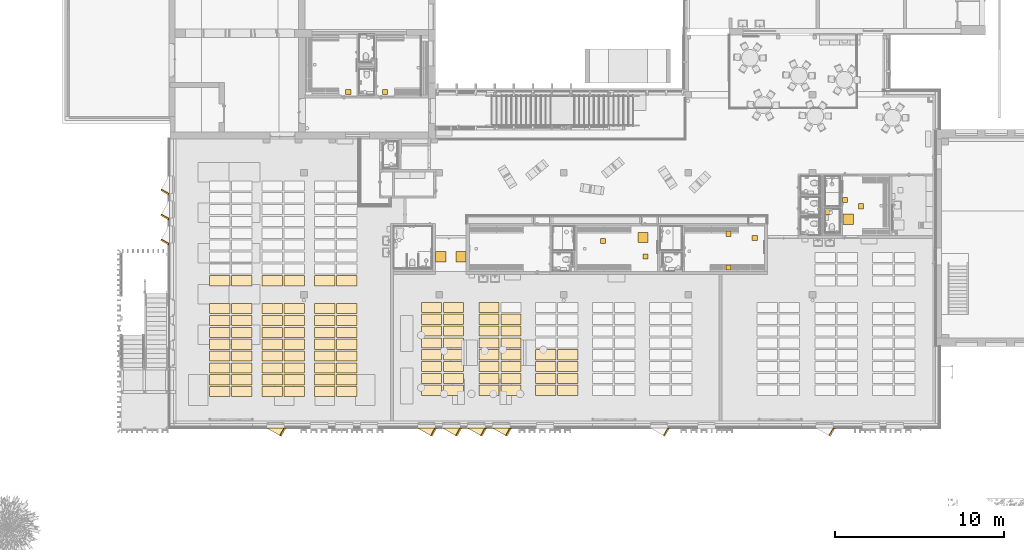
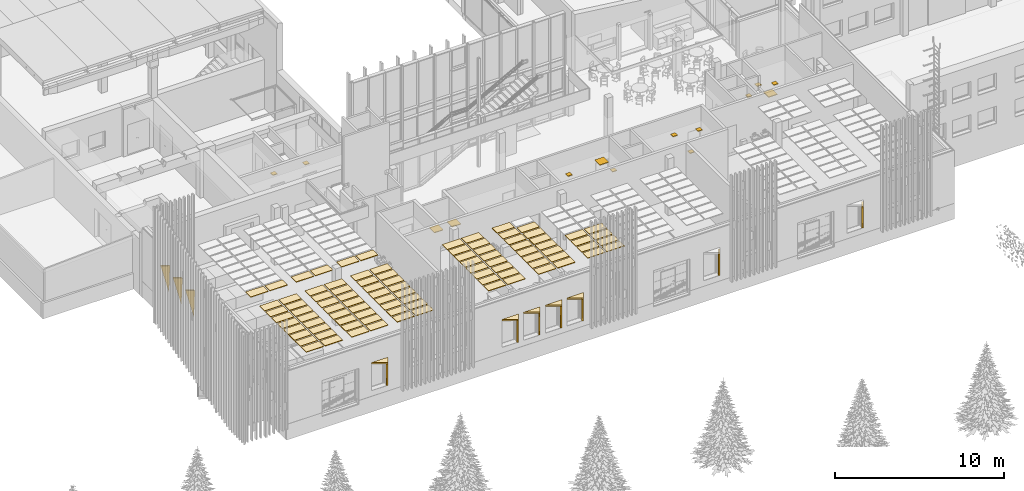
# One storey, part 231 of 301: 108 coverings, 14 doors.
"""IFC2X3 building model written with IfcOpenShell, lengths in millimetres."""

from ifc_helpers import new_model, entity, si_unit, converted_unit, derived_unit, money_unit, direction, frame, origin_with_axes, place, context, subcontext, project, spatial, faceted_brep, source, transform, mapped, material, type_object, element, save


model = new_model("IFC2X3")

# Units and contexts
model_context = context("Model", 3, precision=0.01, world=origin_with_axes(), true_north=direction((0.0, 1.0)))
body_context = subcontext(model_context, "Body", "Model", "MODEL_VIEW")
ifc_project = project(units=[si_unit("LENGTHUNIT", "METRE", prefix="MILLI"), si_unit("AREAUNIT", "SQUARE_METRE"), si_unit("VOLUMEUNIT", "CUBIC_METRE"), converted_unit("PLANEANGLEUNIT", "DEGREE", entity("IfcPlaneAngleMeasure", 0.0174532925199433), si_unit("PLANEANGLEUNIT", "RADIAN"), dimensions=[0, 0, 0, 0, 0, 0, 0]), money_unit("EUR"), converted_unit("TIMEUNIT", "Year", entity("IfcTimeMeasure", 31557600.0), si_unit("TIMEUNIT", "SECOND"), dimensions=[0, 0, 1, 0, 0, 0, 0]), si_unit("MASSUNIT", "GRAM", prefix="KILO"), si_unit("THERMODYNAMICTEMPERATUREUNIT", "DEGREE_CELSIUS"), si_unit("LUMINOUSINTENSITYUNIT", "LUMEN"), si_unit("ENERGYUNIT", "JOULE", prefix="MEGA"), derived_unit("THERMALCONDUCTANCEUNIT", [(si_unit("POWERUNIT", "WATT"), 1), (si_unit("LENGTHUNIT", "METRE"), -1), (si_unit("THERMODYNAMICTEMPERATUREUNIT", "KELVIN"), -1)]), derived_unit("SPECIFICHEATCAPACITYUNIT", [(si_unit("ENERGYUNIT", "JOULE"), 1), (si_unit("MASSUNIT", "GRAM", prefix="KILO"), -1), (si_unit("THERMODYNAMICTEMPERATUREUNIT", "KELVIN"), -1)]), derived_unit("MASSDENSITYUNIT", [(si_unit("MASSUNIT", "GRAM", prefix="KILO"), 1), (si_unit("VOLUMEUNIT", "CUBIC_METRE"), -1)])], contexts=[model_context])

# Site, building, storey
site_placement = place(None, frame((0.0, 0.0, 8650.0), z_axis=(0.0, 0.0, 1.0), x_axis=(1.0, 0.0, 0.0)))
site = spatial("IfcSite", under=ifc_project, at=site_placement, Name="43301:001:0844", CompositionType="ELEMENT")
building_placement = place(site_placement, origin_with_axes())
building = spatial("IfcBuilding", under=site, at=building_placement, Name="Kuressaare Ametikooli tuulikute mehaanikute õppekorpus", CompositionType="ELEMENT")
storey_placement = place(building_placement, origin_with_axes())
storey = spatial("IfcBuildingStorey", under=building, at=storey_placement, Name="1.korrus", CompositionType="ELEMENT", Elevation=0.0)

# Doors
ifc_material_1 = material(Name="GENEERILINE - EHITUSTOODE")
door_style = type_object("IfcDoorStyle", Name="GENEERILINE - EHITUSTOODE 50", ConstructionType="NOTDEFINED", OperationType="NOTDEFINED", ParameterTakesPrecedence=False, Sizeable=False)
door_1_placement = place(storey_placement, frame((120810.3884756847, 18034.33709819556, 2600.0), z_axis=(0.0, 0.0, 1.0), x_axis=(1.0, 0.0, 0.0)))
element("IfcDoor", 1, at=door_1_placement, inside=storey, type_object=door_style, material=ifc_material_1, Name="PL1", context=body_context, shape_type="Brep", body=[
    faceted_brep([(0.0, 0.0, 49.99999999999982), (0.0, 0.0, 0.0), (299.9999999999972, 0.0, 0.0), (299.9999999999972, 0.0, 49.99999999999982), (0.0, 300.0000000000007, 49.99999999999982), (0.0, 300.0000000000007, 0.0), (299.9999999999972, 300.0000000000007, 0.0), (299.9999999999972, 300.0000000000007, 49.99999999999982)], [[[0, 1, 2, 3]], [[4, 5, 1, 0]], [[2, 1, 5, 6]], [[3, 2, 6, 7]], [[4, 0, 3, 7]], [[7, 6, 5, 4]]]),
])
door_2_placement = place(storey_placement, frame((128622.2178554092, 21648.56134124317, 2600.0), z_axis=(0.0, 0.0, 1.0), x_axis=(1.0, 0.0, 0.0)))
element("IfcDoor", 2, at=door_2_placement, inside=storey, type_object=door_style, material=ifc_material_1, Name="PL1", context=body_context, shape_type="Brep", body=[
    faceted_brep([(0.0, 0.0, 49.99999999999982), (0.0, 0.0, 0.0), (300.0000000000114, 0.0, 0.0), (300.0000000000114, 0.0, 49.99999999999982), (0.0, 300.0000000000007, 49.99999999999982), (0.0, 300.0000000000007, 0.0), (300.0000000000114, 300.0000000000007, 0.0), (300.0000000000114, 300.0000000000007, 49.99999999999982)], [[[0, 1, 2, 3]], [[4, 5, 1, 0]], [[2, 1, 5, 6]], [[3, 2, 6, 7]], [[4, 0, 3, 7]], [[7, 6, 5, 4]]]),
])
for number, where, z_axis, x_axis, name in (
    (3, (103646.4288775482, 18510.49999980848, 2600.0), (0.0, 0.0, 1.0), (1.0, 0.0, 0.0), "PL2"),
    (4, (104855.512230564, 18510.49999980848, 2600.0), (0.0, 0.0, 1.0), (1.0, 0.0, 0.0), "PL2"),
):
    element("IfcDoor", number, at=place(storey_placement, frame(where, z_axis=z_axis, x_axis=x_axis)), inside=storey, type_object=door_style, material=ifc_material_1, Name=name, context=body_context, shape_type="Brep", body=[
        faceted_brep([(0.0, 0.0, 49.99999999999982), (0.0, 0.0, 0.0), (599.9999999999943, 0.0, 0.0), (599.9999999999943, 0.0, 49.99999999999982), (0.0, 599.9999999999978, 49.99999999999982), (0.0, 599.9999999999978, 0.0), (599.9999999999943, 599.9999999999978, 0.0), (599.9999999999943, 599.9999999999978, 49.99999999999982)], [[[0, 1, 2, 3]], [[4, 5, 1, 0]], [[2, 1, 5, 6]], [[3, 2, 6, 7]], [[4, 0, 3, 7]], [[7, 6, 5, 4]]]),
    ])
door_3_placement = place(storey_placement, frame((98635.22015626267, 28401.88754336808, 2600.0), z_axis=(0.0, 0.0, 1.0), x_axis=(1.0, 0.0, 0.0)))
element("IfcDoor", 5, at=door_3_placement, inside=storey, type_object=door_style, material=ifc_material_1, Name="PL1", context=body_context, shape_type="Brep", body=[
    faceted_brep([(0.0, 0.0, 49.99999999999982), (0.0, 0.0, 0.0), (0.0, 300.0000000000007, 0.0), (0.0, 300.0000000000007, 49.99999999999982), (-299.9999999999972, 0.0, 49.99999999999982), (-299.9999999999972, 0.0, 0.0), (-299.9999999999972, 300.0000000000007, 0.0), (-299.9999999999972, 300.0000000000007, 49.99999999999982)], [[[0, 1, 2, 3]], [[4, 5, 1, 0]], [[2, 1, 5, 6]], [[3, 2, 6, 7]], [[4, 0, 3, 7]], [[7, 6, 5, 4]]]),
])
door_4_placement = place(storey_placement, frame((127725.5076866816, 20725.77488011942, 2600.0), z_axis=(0.0, 0.0, 1.0), x_axis=(1.0, 0.0, 0.0)))
element("IfcDoor", 6, at=door_4_placement, inside=storey, type_object=door_style, material=ifc_material_1, Name="PL2", context=body_context, shape_type="Brep", body=[
    faceted_brep([(0.0, 0.0, 49.99999999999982), (0.0, 0.0, 0.0), (599.9999999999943, 0.0, 0.0), (599.9999999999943, 0.0, 49.99999999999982), (0.0, 599.9999999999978, 49.99999999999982), (0.0, 599.9999999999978, 0.0), (599.9999999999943, 599.9999999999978, 0.0), (599.9999999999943, 599.9999999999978, 49.99999999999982)], [[[0, 1, 2, 3]], [[4, 5, 1, 0]], [[2, 1, 5, 6]], [[3, 2, 6, 7]], [[4, 0, 3, 7]], [[7, 6, 5, 4]]]),
])
door_5_placement = place(storey_placement, frame((126655.2622740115, 21322.07015572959, 2600.0), z_axis=(0.0, 0.0, 1.0), x_axis=(1.0, 0.0, 0.0)))
element("IfcDoor", 7, at=door_5_placement, inside=storey, type_object=door_style, material=ifc_material_1, Name="PL1", context=body_context, shape_type="Brep", body=[
    faceted_brep([(0.0, 0.0, 49.99999999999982), (0.0, 0.0, 0.0), (299.9999999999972, 0.0, 0.0), (299.9999999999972, 0.0, 49.99999999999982), (0.0, 300.0000000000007, 49.99999999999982), (0.0, 300.0000000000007, 0.0), (299.9999999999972, 300.0000000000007, 0.0), (299.9999999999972, 300.0000000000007, 49.99999999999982)], [[[0, 1, 2, 3]], [[4, 5, 1, 0]], [[2, 1, 5, 6]], [[3, 2, 6, 7]], [[4, 0, 3, 7]], [[7, 6, 5, 4]]]),
])
door_6_placement = place(storey_placement, frame((115595.5647433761, 19654.87164800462, 2600.0), z_axis=(0.0, 0.0, 1.0), x_axis=(1.0, 0.0, 0.0)))
element("IfcDoor", 8, at=door_6_placement, inside=storey, type_object=door_style, material=ifc_material_1, Name="PL2", context=body_context, shape_type="Brep", body=[
    faceted_brep([(0.0, 0.0, 49.99999999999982), (0.0, 0.0, 0.0), (599.9999999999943, 0.0, 0.0), (599.9999999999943, 0.0, 49.99999999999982), (0.0, 599.9999999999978, 49.99999999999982), (0.0, 599.9999999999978, 0.0), (599.9999999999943, 599.9999999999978, 0.0), (599.9999999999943, 599.9999999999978, 49.99999999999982)], [[[0, 1, 2, 3]], [[4, 5, 1, 0]], [[2, 1, 5, 6]], [[3, 2, 6, 7]], [[4, 0, 3, 7]], [[7, 6, 5, 4]]]),
])
for number, where, z_axis, x_axis, name in (
    (9, (115902.7588329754, 18672.41860460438, 2600.0), (0.0, 0.0, 1.0), (1.0, 0.0, 0.0), "PL1"),
    (10, (113388.1882783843, 19593.81328383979, 2600.0), (0.0, 0.0, 1.0), (1.0, 0.0, 0.0), "PL1"),
    (11, (120810.3884756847, 20024.95101274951, 2600.0), (0.0, 0.0, 1.0), (1.0, 0.0, 0.0), "PL1"),
    (12, (122349.7802944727, 19759.95101274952, 2600.0), (0.0, 0.0, 1.0), (1.0, 0.0, 0.0), "PL1"),
    (13, (127694.5654159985, 22029.65420541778, 2600.0), (0.0, 0.0, 1.0), (1.0, 0.0, 0.0), "PL1"),
    (14, (100515.5982103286, 28385.74706393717, 2600.0), (0.0, 0.0, 1.0), (1.0, 0.0, 0.0), "PL1"),
):
    element("IfcDoor", number, at=place(storey_placement, frame(where, z_axis=z_axis, x_axis=x_axis)), inside=storey, type_object=door_style, material=ifc_material_1, Name=name, context=body_context, shape_type="Brep", body=[
        faceted_brep([(0.0, 0.0, 49.99999999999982), (0.0, 0.0, 0.0), (299.9999999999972, 0.0, 0.0), (299.9999999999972, 0.0, 49.99999999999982), (0.0, 300.0000000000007, 49.99999999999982), (0.0, 300.0000000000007, 0.0), (299.9999999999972, 300.0000000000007, 0.0), (299.9999999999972, 300.0000000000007, 49.99999999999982)], [[[0, 1, 2, 3]], [[4, 5, 1, 0]], [[2, 1, 5, 6]], [[3, 2, 6, 7]], [[4, 0, 3, 7]], [[7, 6, 5, 4]]]),
    ])

# Coverings
covering_type_1 = type_object("IfcCoveringType", Name="GENEERILINE - EHITUSTOODE", PredefinedType="NOTDEFINED")
shared_shape = source(origin_with_axes(), body_context, "Body", "Brep", [
    faceted_brep([(-1.439929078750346e-06, 535.5139776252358, 1710.0), (1.386339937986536e-05, 1035.513977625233, -200.0000000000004), (99.99999856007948, 535.5139745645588, 1710.0), (1.386339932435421e-05, 1035.513977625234, 1710.0), (99.5575548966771, 1028.87879242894, -199.8894158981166), (100.0000156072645, 1092.490563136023, 1708.860009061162)], [[[0, 1, 2]], [[1, 0, 3]], [[2, 1, 4]], [[0, 2, 5]], [[3, 0, 5]], [[1, 3, 5]], [[4, 1, 5]], [[5, 2, 4]]]),
])
for number, where, z_axis, x_axis in (
    (15, (104565.321618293, 7787.116868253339, 901.1399909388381), (0.0, 0.0, 1.0), (0.868864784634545, -0.4950494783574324, 0.0)),
    (16, (94173.43784523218, 7787.116868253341, 901.139990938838), (0.0, 0.0, 1.0), (0.868864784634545, -0.4950494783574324, 0.0)),
    (17, (103090.321618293, 7787.116868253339, 901.1399909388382), (0.0, 0.0, 1.0), (0.868864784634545, -0.4950494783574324, 0.0)),
    (18, (106040.321618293, 7787.116868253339, 901.1399909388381), (0.0, 0.0, 1.0), (0.868864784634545, -0.4950494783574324, 0.0)),
    (19, (107515.321618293, 7787.116868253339, 901.1399909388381), (0.0, 0.0, 1.0), (0.868864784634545, -0.4950494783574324, 0.0)),
    (20, (116840.3188626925, 7787.116868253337, 901.139990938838), (0.0, 0.0, 1.0), (0.868864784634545, -0.4950494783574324, 0.0)),
    (21, (126615.437845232, 7787.116868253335, 901.139990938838), (0.0, 0.0, 1.0), (0.868864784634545, -0.4950494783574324, 0.0)),
    (22, (86981.50502288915, 23076.69959045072, 1676.13999093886), (0.0, 0.0, 1.0), (-0.4950494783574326, -0.8688647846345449, 0.0)),
    (23, (86981.50502288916, 20126.69959045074, 1676.13999093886), (0.0, 0.0, 1.0), (-0.4950494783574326, -0.8688647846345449, 0.0)),
    (24, (86981.50502288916, 21601.69959045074, 1676.13999093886), (0.0, 0.0, 1.0), (-0.4950494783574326, -0.8688647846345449, 0.0)),
):
    element("IfcCovering", number, at=place(storey_placement, frame(where, z_axis=z_axis, x_axis=x_axis)), inside=storey, type_object=covering_type_1, material=ifc_material_1, Name="aknakopsik", PredefinedType="NOTDEFINED", context=body_context, shape_type="MappedRepresentation", body=[
        mapped(shared_shape, transform((0.0, 0.0, 0.0))),
    ])
ifc_material_2 = material(Name="GENEERILINE - KONSTRUKTRIOON")
covering_type_2 = type_object("IfcCoveringType", Name="GENEERILINE - KONSTRUKTRIOON 100", PredefinedType="NOTDEFINED")
for number, where, z_axis, x_axis in (
    (25, (105193.044993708, 8686.838490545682, 2710.0), (0.0, 0.0, 1.0), (1.0, 0.0, 0.0)),
    (26, (94801.16122064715, 8686.838490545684, 2710.0), (0.0, 0.0, 1.0), (1.0, 0.0, 0.0)),
    (27, (103718.044993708, 8686.838490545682, 2710.0), (0.0, 0.0, 1.0), (1.0, 0.0, 0.0)),
    (28, (106668.044993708, 8686.838490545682, 2710.0), (0.0, 0.0, 1.0), (1.0, 0.0, 0.0)),
    (29, (108143.044993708, 8686.838490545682, 2710.0), (0.0, 0.0, 1.0), (1.0, 0.0, 0.0)),
):
    element("IfcCovering", number, at=place(storey_placement, frame(where, z_axis=z_axis, x_axis=x_axis)), inside=storey, type_object=covering_type_2, material=ifc_material_2, Name="Akna varjestus", PredefinedType="NOTDEFINED", context=body_context, shape_type="Brep", body=[
        faceted_brep([(0.0, 0.0, 0.0), (0.0, 0.0, -100.0000000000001), (-1125.092708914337, 0.0, -100.0000000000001), (-1125.092708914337, 0.0, 0.0), (-275.7309844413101, -483.937335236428, 0.0), (-275.7309844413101, -483.937335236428, -100.0000000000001)], [[[0, 1, 2, 3]], [[4, 5, 1, 0]], [[2, 1, 5]], [[3, 2, 5, 4]], [[4, 0, 3]]]),
    ])
covering_type_3 = type_object("IfcCoveringType", Name="GENEERILINE - KONSTRUKTRIOON 40", PredefinedType="CEILING")
for number, where, z_axis, x_axis, name in (
    (30, (105300.0, 12724.99999999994, 3530.0), (0.0, 0.0, 1.0), (1.0, 0.0, 0.0), "RL3"),
    (31, (105300.0, 13424.99999999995, 3530.0), (0.0, 0.0, 1.0), (1.0, 0.0, 0.0), "RL3"),
    (32, (105300.0, 14124.99999999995, 3530.0), (0.0, 0.0, 1.0), (1.0, 0.0, 0.0), "RL3"),
    (33, (105300.0, 12024.99999999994, 3530.0), (0.0, 0.0, 1.0), (1.0, 0.0, 0.0), "RL3"),
    (34, (104000.0, 12724.99999999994, 3530.0), (0.0, 0.0, 1.0), (1.0, 0.0, 0.0), "RL3"),
    (35, (104000.0, 13424.99999999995, 3530.0), (0.0, 0.0, 1.0), (1.0, 0.0, 0.0), "RL3"),
    (36, (104000.0, 14124.99999999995, 3530.0), (0.0, 0.0, 1.0), (1.0, 0.0, 0.0), "RL3"),
    (37, (104000.0, 12024.99999999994, 3530.0), (0.0, 0.0, 1.0), (1.0, 0.0, 0.0), "RL3"),
    (38, (105300.0, 11324.99999999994, 3530.0), (0.0, 0.0, 1.0), (1.0, 0.0, 0.0), "RL3"),
    (39, (105300.0, 10624.99999999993, 3530.0), (0.0, 0.0, 1.0), (1.0, 0.0, 0.0), "RL3"),
    (40, (104000.0, 10624.99999999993, 3530.0), (0.0, 0.0, 1.0), (1.0, 0.0, 0.0), "RL3"),
    (41, (104000.0, 11324.99999999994, 3530.0), (0.0, 0.0, 1.0), (1.0, 0.0, 0.0), "RL3"),
    (42, (105300.0, 14824.99999999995, 3530.0), (0.0, 0.0, 1.0), (1.0, 0.0, 0.0), "RL3"),
):
    element("IfcCovering", number, at=place(storey_placement, frame(where, z_axis=z_axis, x_axis=x_axis)), inside=storey, type_object=covering_type_3, material=ifc_material_2, Name=name, PredefinedType="CEILING", context=body_context, shape_type="Brep", body=[
        faceted_brep([(0.0, 0.0, 0.0), (0.0, 0.0, -40.00000000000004), (0.0, 599.9999999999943, -40.00000000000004), (0.0, 599.9999999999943, 0.0), (-1200.000000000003, 0.0, 0.0), (-1200.000000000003, 0.0, -40.00000000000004), (-1200.000000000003, 599.9999999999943, -40.00000000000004), (-1200.000000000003, 599.9999999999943, 0.0)], [[[0, 1, 2, 3]], [[4, 5, 1, 0]], [[2, 1, 5, 6]], [[3, 2, 6, 7]], [[4, 0, 3, 7]], [[7, 6, 5, 4]]]),
    ])
covering_1_placement = place(storey_placement, frame((105300.0, 15524.99999999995, 3530.0), z_axis=(0.0, 0.0, 1.0), x_axis=(1.0, 0.0, 0.0)))
element("IfcCovering", 43, at=covering_1_placement, inside=storey, type_object=covering_type_3, material=ifc_material_2, Name="RL3", PredefinedType="CEILING", context=body_context, shape_type="Brep", body=[
    faceted_brep([(0.0, 0.0, 0.0), (0.0, 0.0, -40.00000000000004), (0.0, 599.9999999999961, -40.00000000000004), (0.0, 599.9999999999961, 0.0), (-1200.000000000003, 0.0, 0.0), (-1200.000000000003, 0.0, -40.00000000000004), (-1200.000000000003, 599.9999999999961, -40.00000000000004), (-1200.000000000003, 599.9999999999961, 0.0)], [[[0, 1, 2, 3]], [[4, 5, 1, 0]], [[2, 1, 5, 6]], [[3, 2, 6, 7]], [[4, 0, 3, 7]], [[7, 6, 5, 4]]]),
])
covering_2_placement = place(storey_placement, frame((104000.0, 14824.99999999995, 3530.0), z_axis=(0.0, 0.0, 1.0), x_axis=(1.0, 0.0, 0.0)))
element("IfcCovering", 44, at=covering_2_placement, inside=storey, type_object=covering_type_3, material=ifc_material_2, Name="RL3", PredefinedType="CEILING", context=body_context, shape_type="Brep", body=[
    faceted_brep([(0.0, 0.0, 0.0), (0.0, 0.0, -40.00000000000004), (0.0, 599.9999999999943, -40.00000000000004), (0.0, 599.9999999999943, 0.0), (-1200.000000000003, 0.0, 0.0), (-1200.000000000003, 0.0, -40.00000000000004), (-1200.000000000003, 599.9999999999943, -40.00000000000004), (-1200.000000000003, 599.9999999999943, 0.0)], [[[0, 1, 2, 3]], [[4, 5, 1, 0]], [[2, 1, 5, 6]], [[3, 2, 6, 7]], [[4, 0, 3, 7]], [[7, 6, 5, 4]]]),
])
covering_3_placement = place(storey_placement, frame((104000.0, 15524.99999999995, 3530.0), z_axis=(0.0, 0.0, 1.0), x_axis=(1.0, 0.0, 0.0)))
element("IfcCovering", 45, at=covering_3_placement, inside=storey, type_object=covering_type_3, material=ifc_material_2, Name="RL3", PredefinedType="CEILING", context=body_context, shape_type="Brep", body=[
    faceted_brep([(0.0, 0.0, 0.0), (0.0, 0.0, -40.00000000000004), (0.0, 599.9999999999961, -40.00000000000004), (0.0, 599.9999999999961, 0.0), (-1200.000000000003, 0.0, 0.0), (-1200.000000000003, 0.0, -40.00000000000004), (-1200.000000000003, 599.9999999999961, -40.00000000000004), (-1200.000000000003, 599.9999999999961, 0.0)], [[[0, 1, 2, 3]], [[4, 5, 1, 0]], [[2, 1, 5, 6]], [[3, 2, 6, 7]], [[4, 0, 3, 7]], [[7, 6, 5, 4]]]),
])
for number, where, z_axis, x_axis, name in (
    (46, (108700.0, 12724.99999999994, 3530.0), (0.0, 0.0, 1.0), (1.0, 0.0, 0.0), "RL3"),
    (47, (108700.0, 13424.99999999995, 3530.0), (0.0, 0.0, 1.0), (1.0, 0.0, 0.0), "RL3"),
    (48, (108700.0, 14124.99999999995, 3530.0), (0.0, 0.0, 1.0), (1.0, 0.0, 0.0), "RL3"),
    (49, (108700.0, 12024.99999999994, 3530.0), (0.0, 0.0, 1.0), (1.0, 0.0, 0.0), "RL3"),
    (50, (107400.0, 13424.99999999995, 3530.0), (0.0, 0.0, 1.0), (1.0, 0.0, 0.0), "RL3"),
    (51, (107400.0, 12724.99999999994, 3530.0), (0.0, 0.0, 1.0), (1.0, 0.0, 0.0), "RL3"),
    (52, (107400.0, 14124.99999999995, 3530.0), (0.0, 0.0, 1.0), (1.0, 0.0, 0.0), "RL3"),
    (53, (107400.0, 12024.99999999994, 3530.0), (0.0, 0.0, 1.0), (1.0, 0.0, 0.0), "RL3"),
    (54, (108700.0, 11324.99999999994, 3530.0), (0.0, 0.0, 1.0), (1.0, 0.0, 0.0), "RL3"),
    (55, (108700.0, 10624.99999999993, 3530.0), (0.0, 0.0, 1.0), (1.0, 0.0, 0.0), "RL3"),
    (56, (107400.0, 10624.99999999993, 3530.0), (0.0, 0.0, 1.0), (1.0, 0.0, 0.0), "RL3"),
    (57, (107400.0, 11324.99999999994, 3530.0), (0.0, 0.0, 1.0), (1.0, 0.0, 0.0), "RL3"),
    (58, (108700.0, 14824.99999999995, 3530.0), (0.0, 0.0, 1.0), (1.0, 0.0, 0.0), "RL3"),
    (59, (107400.0, 14824.99999999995, 3530.0), (0.0, 0.0, 1.0), (1.0, 0.0, 0.0), "RL3"),
):
    element("IfcCovering", number, at=place(storey_placement, frame(where, z_axis=z_axis, x_axis=x_axis)), inside=storey, type_object=covering_type_3, material=ifc_material_2, Name=name, PredefinedType="CEILING", context=body_context, shape_type="Brep", body=[
        faceted_brep([(0.0, 0.0, 0.0), (0.0, 0.0, -40.00000000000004), (0.0, 599.9999999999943, -40.00000000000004), (0.0, 599.9999999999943, 0.0), (-1200.000000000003, 0.0, 0.0), (-1200.000000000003, 0.0, -40.00000000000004), (-1200.000000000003, 599.9999999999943, -40.00000000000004), (-1200.000000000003, 599.9999999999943, 0.0)], [[[0, 1, 2, 3]], [[4, 5, 1, 0]], [[2, 1, 5, 6]], [[3, 2, 6, 7]], [[4, 0, 3, 7]], [[7, 6, 5, 4]]]),
    ])
covering_4_placement = place(storey_placement, frame((107400.0, 15524.99999999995, 3530.0), z_axis=(0.0, 0.0, 1.0), x_axis=(1.0, 0.0, 0.0)))
element("IfcCovering", 60, at=covering_4_placement, inside=storey, type_object=covering_type_3, material=ifc_material_2, Name="RL3", PredefinedType="CEILING", context=body_context, shape_type="Brep", body=[
    faceted_brep([(0.0, 0.0, 0.0), (0.0, 0.0, -40.00000000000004), (0.0, 599.9999999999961, -40.00000000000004), (0.0, 599.9999999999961, 0.0), (-1200.000000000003, 0.0, 0.0), (-1200.000000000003, 0.0, -40.00000000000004), (-1200.000000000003, 599.9999999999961, -40.00000000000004), (-1200.000000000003, 599.9999999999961, 0.0)], [[[0, 1, 2, 3]], [[4, 5, 1, 0]], [[2, 1, 5, 6]], [[3, 2, 6, 7]], [[4, 0, 3, 7]], [[7, 6, 5, 4]]]),
])
for number, where, z_axis, x_axis, name in (
    (61, (112062.5, 12724.99999999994, 3530.0), (0.0, 0.0, 1.0), (1.0, 0.0, 0.0), "RL3"),
    (62, (110762.5, 12724.99999999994, 3530.0), (0.0, 0.0, 1.0), (1.0, 0.0, 0.0), "RL3"),
    (63, (112062.5, 12024.99999999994, 3530.0), (0.0, 0.0, 1.0), (1.0, 0.0, 0.0), "RL3"),
    (64, (112062.5, 11324.99999999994, 3530.0), (0.0, 0.0, 1.0), (1.0, 0.0, 0.0), "RL3"),
    (65, (110762.5, 12024.99999999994, 3530.0), (0.0, 0.0, 1.0), (1.0, 0.0, 0.0), "RL3"),
    (66, (112062.5, 10624.99999999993, 3530.0), (0.0, 0.0, 1.0), (1.0, 0.0, 0.0), "RL3"),
    (67, (110762.5, 11324.99999999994, 3530.0), (0.0, 0.0, 1.0), (1.0, 0.0, 0.0), "RL3"),
    (68, (110762.5, 10624.99999999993, 3530.0), (0.0, 0.0, 1.0), (1.0, 0.0, 0.0), "RL3"),
):
    element("IfcCovering", number, at=place(storey_placement, frame(where, z_axis=z_axis, x_axis=x_axis)), inside=storey, type_object=covering_type_3, material=ifc_material_2, Name=name, PredefinedType="CEILING", context=body_context, shape_type="Brep", body=[
        faceted_brep([(0.0, 0.0, 0.0), (0.0, 0.0, -40.00000000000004), (0.0, 599.9999999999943, -40.00000000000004), (0.0, 599.9999999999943, 0.0), (-1200.000000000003, 0.0, 0.0), (-1200.000000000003, 0.0, -40.00000000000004), (-1200.000000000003, 599.9999999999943, -40.00000000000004), (-1200.000000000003, 599.9999999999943, 0.0)], [[[0, 1, 2, 3]], [[4, 5, 1, 0]], [[2, 1, 5, 6]], [[3, 2, 6, 7]], [[4, 0, 3, 7]], [[7, 6, 5, 4]]]),
    ])
for number, where, z_axis, x_axis, name in (
    (69, (95899.99999999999, 17699.046874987, 3530.0), (0.0, 0.0, 1.0), (1.0, 0.0, 0.0), "RL3"),
    (70, (94600.0, 17699.046874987, 3530.0), (0.0, 0.0, 1.0), (1.0, 0.0, 0.0), "RL3"),
):
    element("IfcCovering", number, at=place(storey_placement, frame(where, z_axis=z_axis, x_axis=x_axis)), inside=storey, type_object=covering_type_3, material=ifc_material_2, Name=name, PredefinedType="CEILING", context=body_context, shape_type="Brep", body=[
        faceted_brep([(0.0, 0.0, 0.0), (0.0, 0.0, -40.00000000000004), (-1200.000000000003, 0.0, -40.00000000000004), (-1200.000000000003, 0.0, 0.0), (0.0, -599.9999999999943, 0.0), (0.0, -599.9999999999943, -40.00000000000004), (-1200.000000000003, -599.9999999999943, -40.00000000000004), (-1200.000000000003, -599.9999999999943, 0.0)], [[[0, 1, 2, 3]], [[4, 5, 1, 0]], [[2, 1, 5, 6]], [[3, 2, 6, 7]], [[4, 0, 3, 7]], [[7, 6, 5, 4]]]),
    ])
for number, where, z_axis, x_axis, name in (
    (71, (95899.99999999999, 12649.04687498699, 3530.0), (0.0, 0.0, 1.0), (1.0, 0.0, 0.0), "RL3"),
    (72, (95899.99999999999, 13349.04687498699, 3530.0), (0.0, 0.0, 1.0), (1.0, 0.0, 0.0), "RL3"),
    (73, (95899.99999999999, 14049.04687498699, 3530.0), (0.0, 0.0, 1.0), (1.0, 0.0, 0.0), "RL3"),
    (74, (94600.0, 12649.04687498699, 3530.0), (0.0, 0.0, 1.0), (1.0, 0.0, 0.0), "RL3"),
    (75, (95899.99999999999, 11949.04687498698, 3530.0), (0.0, 0.0, 1.0), (1.0, 0.0, 0.0), "RL3"),
    (76, (94600.0, 13349.04687498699, 3530.0), (0.0, 0.0, 1.0), (1.0, 0.0, 0.0), "RL3"),
    (77, (94600.0, 14049.04687498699, 3530.0), (0.0, 0.0, 1.0), (1.0, 0.0, 0.0), "RL3"),
    (78, (94600.0, 11949.04687498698, 3530.0), (0.0, 0.0, 1.0), (1.0, 0.0, 0.0), "RL3"),
    (79, (95899.99999999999, 14749.04687498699, 3530.0), (0.0, 0.0, 1.0), (1.0, 0.0, 0.0), "RL3"),
    (80, (95899.99999999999, 15449.046874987, 3530.0), (0.0, 0.0, 1.0), (1.0, 0.0, 0.0), "RL3"),
    (81, (94600.0, 14749.04687498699, 3530.0), (0.0, 0.0, 1.0), (1.0, 0.0, 0.0), "RL3"),
    (82, (94600.0, 15449.046874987, 3530.0), (0.0, 0.0, 1.0), (1.0, 0.0, 0.0), "RL3"),
    (83, (95899.99999999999, 11249.04687498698, 3530.0), (0.0, 0.0, 1.0), (1.0, 0.0, 0.0), "RL3"),
    (84, (95899.99999999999, 10549.04687498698, 3530.0), (0.0, 0.0, 1.0), (1.0, 0.0, 0.0), "RL3"),
    (85, (94600.0, 11249.04687498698, 3530.0), (0.0, 0.0, 1.0), (1.0, 0.0, 0.0), "RL3"),
    (86, (94600.0, 10549.04687498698, 3530.0), (0.0, 0.0, 1.0), (1.0, 0.0, 0.0), "RL3"),
):
    element("IfcCovering", number, at=place(storey_placement, frame(where, z_axis=z_axis, x_axis=x_axis)), inside=storey, type_object=covering_type_3, material=ifc_material_2, Name=name, PredefinedType="CEILING", context=body_context, shape_type="Brep", body=[
        faceted_brep([(0.0, 0.0, 0.0), (0.0, 0.0, -40.00000000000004), (0.0, 599.9999999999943, -40.00000000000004), (0.0, 599.9999999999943, 0.0), (-1200.000000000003, 0.0, 0.0), (-1200.000000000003, 0.0, -40.00000000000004), (-1200.000000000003, 599.9999999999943, -40.00000000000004), (-1200.000000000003, 599.9999999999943, 0.0)], [[[0, 1, 2, 3]], [[4, 5, 1, 0]], [[2, 1, 5, 6]], [[3, 2, 6, 7]], [[4, 0, 3, 7]], [[7, 6, 5, 4]]]),
    ])
for number, where, z_axis, x_axis, name in (
    (87, (92799.99999999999, 17699.046874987, 3530.0), (0.0, 0.0, 1.0), (1.0, 0.0, 0.0), "RL3"),
    (88, (91499.99999999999, 17699.046874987, 3530.0), (0.0, 0.0, 1.0), (1.0, 0.0, 0.0), "RL3"),
):
    element("IfcCovering", number, at=place(storey_placement, frame(where, z_axis=z_axis, x_axis=x_axis)), inside=storey, type_object=covering_type_3, material=ifc_material_2, Name=name, PredefinedType="CEILING", context=body_context, shape_type="Brep", body=[
        faceted_brep([(0.0, 0.0, 0.0), (0.0, 0.0, -40.00000000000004), (-1200.000000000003, 0.0, -40.00000000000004), (-1200.000000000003, 0.0, 0.0), (0.0, -599.9999999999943, 0.0), (0.0, -599.9999999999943, -40.00000000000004), (-1200.000000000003, -599.9999999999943, -40.00000000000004), (-1200.000000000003, -599.9999999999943, 0.0)], [[[0, 1, 2, 3]], [[4, 5, 1, 0]], [[2, 1, 5, 6]], [[3, 2, 6, 7]], [[4, 0, 3, 7]], [[7, 6, 5, 4]]]),
    ])
for number, where, z_axis, x_axis, name in (
    (89, (92799.99999999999, 12649.04687498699, 3530.0), (0.0, 0.0, 1.0), (1.0, 0.0, 0.0), "RL3"),
    (90, (92799.99999999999, 13349.04687498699, 3530.0), (0.0, 0.0, 1.0), (1.0, 0.0, 0.0), "RL3"),
    (91, (92799.99999999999, 14049.04687498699, 3530.0), (0.0, 0.0, 1.0), (1.0, 0.0, 0.0), "RL3"),
    (92, (92799.99999999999, 11949.04687498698, 3530.0), (0.0, 0.0, 1.0), (1.0, 0.0, 0.0), "RL3"),
    (93, (91499.99999999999, 12649.04687498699, 3530.0), (0.0, 0.0, 1.0), (1.0, 0.0, 0.0), "RL3"),
    (94, (91499.99999999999, 13349.04687498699, 3530.0), (0.0, 0.0, 1.0), (1.0, 0.0, 0.0), "RL3"),
    (95, (91499.99999999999, 14049.04687498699, 3530.0), (0.0, 0.0, 1.0), (1.0, 0.0, 0.0), "RL3"),
    (96, (91499.99999999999, 11949.04687498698, 3530.0), (0.0, 0.0, 1.0), (1.0, 0.0, 0.0), "RL3"),
    (97, (92799.99999999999, 14749.04687498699, 3530.0), (0.0, 0.0, 1.0), (1.0, 0.0, 0.0), "RL3"),
    (98, (92799.99999999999, 15449.046874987, 3530.0), (0.0, 0.0, 1.0), (1.0, 0.0, 0.0), "RL3"),
    (99, (91499.99999999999, 14749.04687498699, 3530.0), (0.0, 0.0, 1.0), (1.0, 0.0, 0.0), "RL3"),
    (100, (92799.99999999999, 11249.04687498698, 3530.0), (0.0, 0.0, 1.0), (1.0, 0.0, 0.0), "RL3"),
    (101, (91499.99999999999, 15449.046874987, 3530.0), (0.0, 0.0, 1.0), (1.0, 0.0, 0.0), "RL3"),
    (102, (91499.99999999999, 11249.04687498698, 3530.0), (0.0, 0.0, 1.0), (1.0, 0.0, 0.0), "RL3"),
    (103, (92799.99999999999, 10549.04687498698, 3530.0), (0.0, 0.0, 1.0), (1.0, 0.0, 0.0), "RL3"),
    (104, (91499.99999999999, 10549.04687498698, 3530.0), (0.0, 0.0, 1.0), (1.0, 0.0, 0.0), "RL3"),
):
    element("IfcCovering", number, at=place(storey_placement, frame(where, z_axis=z_axis, x_axis=x_axis)), inside=storey, type_object=covering_type_3, material=ifc_material_2, Name=name, PredefinedType="CEILING", context=body_context, shape_type="Brep", body=[
        faceted_brep([(0.0, 0.0, 0.0), (0.0, 0.0, -40.00000000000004), (0.0, 599.9999999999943, -40.00000000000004), (0.0, 599.9999999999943, 0.0), (-1200.000000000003, 0.0, 0.0), (-1200.000000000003, 0.0, -40.00000000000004), (-1200.000000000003, 599.9999999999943, -40.00000000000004), (-1200.000000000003, 599.9999999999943, 0.0)], [[[0, 1, 2, 3]], [[4, 5, 1, 0]], [[2, 1, 5, 6]], [[3, 2, 6, 7]], [[4, 0, 3, 7]], [[7, 6, 5, 4]]]),
    ])
for number, where, z_axis, x_axis, name in (
    (105, (98999.99999999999, 17699.046874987, 3530.0), (0.0, 0.0, 1.0), (1.0, 0.0, 0.0), "RL3"),
    (106, (97699.99999999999, 17699.046874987, 3530.0), (0.0, 0.0, 1.0), (1.0, 0.0, 0.0), "RL3"),
):
    element("IfcCovering", number, at=place(storey_placement, frame(where, z_axis=z_axis, x_axis=x_axis)), inside=storey, type_object=covering_type_3, material=ifc_material_2, Name=name, PredefinedType="CEILING", context=body_context, shape_type="Brep", body=[
        faceted_brep([(0.0, 0.0, 0.0), (0.0, 0.0, -40.00000000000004), (-1200.000000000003, 0.0, -40.00000000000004), (-1200.000000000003, 0.0, 0.0), (0.0, -599.9999999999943, 0.0), (0.0, -599.9999999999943, -40.00000000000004), (-1200.000000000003, -599.9999999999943, -40.00000000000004), (-1200.000000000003, -599.9999999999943, 0.0)], [[[0, 1, 2, 3]], [[4, 5, 1, 0]], [[2, 1, 5, 6]], [[3, 2, 6, 7]], [[4, 0, 3, 7]], [[7, 6, 5, 4]]]),
    ])
for number, where, z_axis, x_axis, name in (
    (107, (98999.99999999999, 12649.04687498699, 3530.0), (0.0, 0.0, 1.0), (1.0, 0.0, 0.0), "RL3"),
    (108, (98999.99999999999, 13349.04687498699, 3530.0), (0.0, 0.0, 1.0), (1.0, 0.0, 0.0), "RL3"),
    (109, (98999.99999999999, 14049.04687498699, 3530.0), (0.0, 0.0, 1.0), (1.0, 0.0, 0.0), "RL3"),
    (110, (97699.99999999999, 12649.04687498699, 3530.0), (0.0, 0.0, 1.0), (1.0, 0.0, 0.0), "RL3"),
    (111, (97699.99999999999, 13349.04687498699, 3530.0), (0.0, 0.0, 1.0), (1.0, 0.0, 0.0), "RL3"),
    (112, (98999.99999999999, 11949.04687498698, 3530.0), (0.0, 0.0, 1.0), (1.0, 0.0, 0.0), "RL3"),
    (113, (97699.99999999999, 14049.04687498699, 3530.0), (0.0, 0.0, 1.0), (1.0, 0.0, 0.0), "RL3"),
    (114, (97699.99999999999, 11949.04687498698, 3530.0), (0.0, 0.0, 1.0), (1.0, 0.0, 0.0), "RL3"),
    (115, (98999.99999999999, 14749.04687498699, 3530.0), (0.0, 0.0, 1.0), (1.0, 0.0, 0.0), "RL3"),
    (116, (98999.99999999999, 15449.046874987, 3530.0), (0.0, 0.0, 1.0), (1.0, 0.0, 0.0), "RL3"),
    (117, (97699.99999999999, 14749.04687498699, 3530.0), (0.0, 0.0, 1.0), (1.0, 0.0, 0.0), "RL3"),
    (118, (97699.99999999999, 15449.046874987, 3530.0), (0.0, 0.0, 1.0), (1.0, 0.0, 0.0), "RL3"),
    (119, (98999.99999999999, 11249.04687498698, 3530.0), (0.0, 0.0, 1.0), (1.0, 0.0, 0.0), "RL3"),
    (120, (98999.99999999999, 10549.04687498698, 3530.0), (0.0, 0.0, 1.0), (1.0, 0.0, 0.0), "RL3"),
    (121, (97699.99999999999, 11249.04687498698, 3530.0), (0.0, 0.0, 1.0), (1.0, 0.0, 0.0), "RL3"),
    (122, (97699.99999999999, 10549.04687498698, 3530.0), (0.0, 0.0, 1.0), (1.0, 0.0, 0.0), "RL3"),
):
    element("IfcCovering", number, at=place(storey_placement, frame(where, z_axis=z_axis, x_axis=x_axis)), inside=storey, type_object=covering_type_3, material=ifc_material_2, Name=name, PredefinedType="CEILING", context=body_context, shape_type="Brep", body=[
        faceted_brep([(0.0, 0.0, 0.0), (0.0, 0.0, -40.00000000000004), (0.0, 599.9999999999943, -40.00000000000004), (0.0, 599.9999999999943, 0.0), (-1200.000000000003, 0.0, 0.0), (-1200.000000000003, 0.0, -40.00000000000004), (-1200.000000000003, 599.9999999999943, -40.00000000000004), (-1200.000000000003, 599.9999999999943, 0.0)], [[[0, 1, 2, 3]], [[4, 5, 1, 0]], [[2, 1, 5, 6]], [[3, 2, 6, 7]], [[4, 0, 3, 7]], [[7, 6, 5, 4]]]),
    ])

save(model, "model.ifc")
